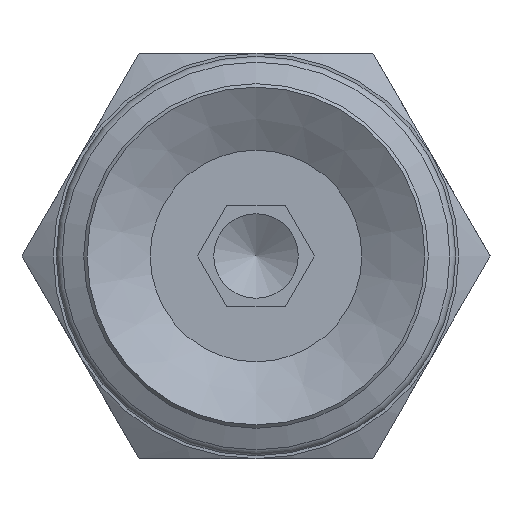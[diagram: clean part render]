
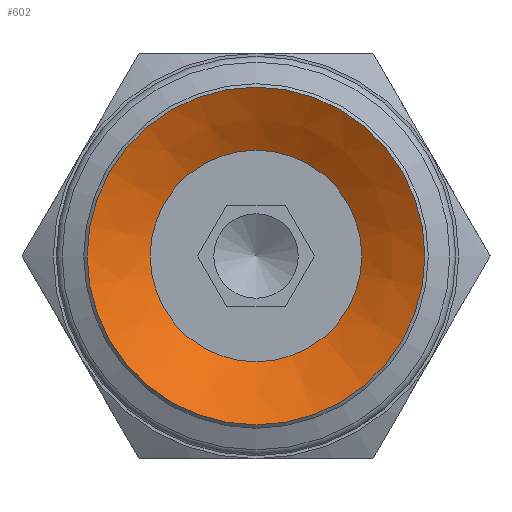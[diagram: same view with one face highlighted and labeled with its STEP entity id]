
A CAD part, front view. The second image highlights one B-rep face of the part: STEP entity #602.
In plain terms, the highlighted conical face has half-angle 60 degrees and reference radius 3.133 mm.
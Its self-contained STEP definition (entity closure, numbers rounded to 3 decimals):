
#602=ADVANCED_FACE('',(#848,#849),#850,.F.);
#848=FACE_BOUND('',#1163,.T.);
#849=FACE_OUTER_BOUND('',#1164,.T.);
#850=CONICAL_SURFACE('',#1165,3.133,1.047);
#1163=EDGE_LOOP('',(#1885));
#1164=EDGE_LOOP('',(#1886));
#1165=AXIS2_PLACEMENT_3D('',#1887,#1888,#1889);
#1885=ORIENTED_EDGE('',*,*,#2271,.F.);
#1886=ORIENTED_EDGE('',*,*,#2272,.T.);
#1887=CARTESIAN_POINT('',(0.0,7.659,0.));
#1888=DIRECTION('',(-0.0,-1.0,0.));
#1889=DIRECTION('',(0.0,0.,-1.0));
#2271=EDGE_CURVE('',#2608,#2608,#2609,.T.);
#2272=EDGE_CURVE('',#2610,#2610,#2611,.T.);
#2608=VERTEX_POINT('',#3554);
#2609=CIRCLE('',#3555,3.133);
#2610=VERTEX_POINT('',#3556);
#2611=CIRCLE('',#3557,5.0);
#3554=CARTESIAN_POINT('',(0.0,7.659,-3.133));
#3555=AXIS2_PLACEMENT_3D('',#3891,#3892,#3893);
#3556=CARTESIAN_POINT('',(0.0,6.581,-5.0));
#3557=AXIS2_PLACEMENT_3D('',#3894,#3895,#3896);
#3891=CARTESIAN_POINT('',(0.0,7.659,0.));
#3892=DIRECTION('',(0.0,-1.0,0.));
#3893=DIRECTION('',(0.0,0.,-1.0));
#3894=CARTESIAN_POINT('',(0.0,6.581,0.0));
#3895=DIRECTION('',(0.0,-1.0,0.));
#3896=DIRECTION('',(0.0,0.,-1.0));
